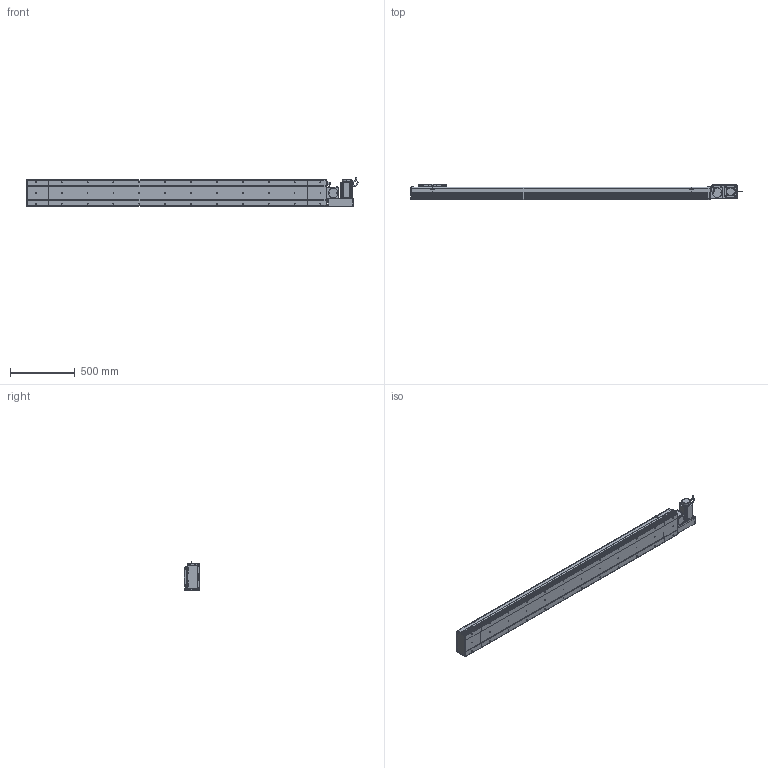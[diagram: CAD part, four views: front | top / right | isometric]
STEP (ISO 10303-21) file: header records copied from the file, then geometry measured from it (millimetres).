
FILE_DESCRIPTION (( 'STEP AP214' ), '1' );
FILE_NAME ('D20 CBH RH S2000.STEP', '2010-06-30T09:53:30', ( 'Conseil Régional Haute-Normandie' ), ( 'Conseil Régional Haute-Normandie' ), 'SwSTEP 2.0', 'SolidWorks 2010', '' );
FILE_SCHEMA (( 'AUTOMOTIVE_DESIGN' ));
Length unit declared in the file: millimetre
Products named in the file (31): Plaque de Bout Tail D20_Default; Couvercle_Default; Corp Tail D20_Default; vis M5 L15_Default; Plaque De Serrage D20_Default; Tail D20_Default; Glissiere_Default; Chariot D20_Default; Support Chariot D20_Default; D20 CBH RH S2000; Couvercle RH_Default; Corp Tail D20 RH_Default; Head D20 RH_Default; Rondelle Cache D20 RH_Default; Plaque De Serrage D20 RH_Default; Plaque de Bout Head D20 RH_Default; avant 90BLDC125A-640; Moteur motionking 90BLDC125A-640; Support moteur RH_Default; Conecteur2_Default; codeur 90BLDC125-640; corps 90BLDC125A-640; vis M5 L30_Default; ecrou_Default; Conecteur_Default; Corp D20 S2000_Default; vis M5 L47_Default; Cache Support Moteur RH_Default; Couvercle S2000_Default; Corp S2000_Default
Assembly tree (68 placements, depth 4):
  D20 CBH RH S2000
    Head D20 RH_Default
      Moteur motionking 90BLDC125A-640
        Conecteur2_Default
        codeur 90BLDC125-640
        avant 90BLDC125A-640
        corps 90BLDC125A-640
        Conecteur_Default
      vis M5 L15_Default  x14
      vis M5 L30_Default  x4
      Rondelle Cache D20 RH_Default  x3
      ecrou_Default  x4
      vis M5 L47_Default  x4
      Plaque de Bout Head D20 RH_Default
      Couvercle RH_Default
      Support moteur RH_Default
      Plaque De Serrage D20 RH_Default
      Cache Support Moteur RH_Default
      Corp Tail D20 RH_Default
    Chariot D20_Default
      vis M5 L15_Default  x8
      Chariot D20_Default
      Support Chariot D20_Default
      Glissiere_Default
    Tail D20_Default
      vis M5 L15_Default  x6
      Plaque de Bout Tail D20_Default
      Plaque De Serrage D20_Default
      Corp Tail D20_Default
      Couvercle_Default
    Corp D20 S2000_Default
      Couvercle S2000_Default
      Corp S2000_Default
Bounding box: 2565.45 x 119.5 x 229.7 mm (x, y, z)
Volume: 16924648.7 mm3; surface area: 3308292.6 mm2
Topology: 105 solids, 105 shells, 3817 faces, 9498 edges, 6166 vertices
Faces by surface type: plane 2128, bspline 806, cylinder 712, torus 95, cone 72, sphere 4
Entity records: 159422 total; most frequent: CARTESIAN_POINT 82313, ORIENTED_EDGE 15264, DIRECTION 11614, EDGE_CURVE 7632, VERTEX_POINT 5050, VECTOR 4936, LINE 4936, AXIS2_PLACEMENT_3D 3339
